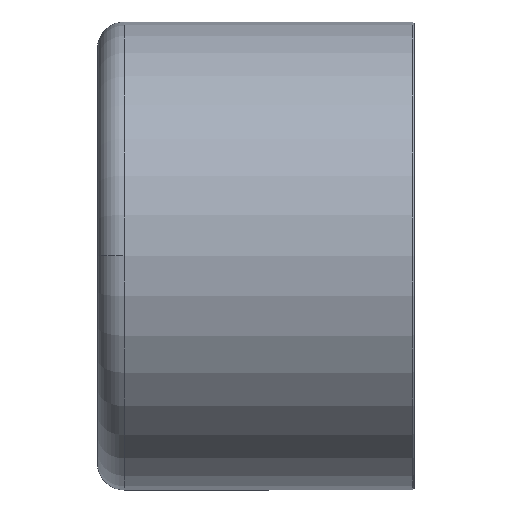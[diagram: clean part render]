
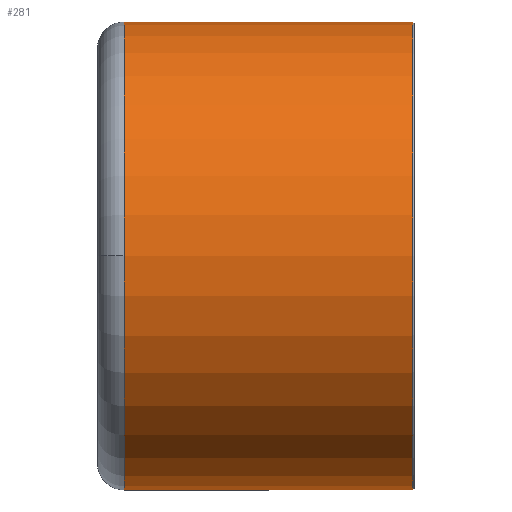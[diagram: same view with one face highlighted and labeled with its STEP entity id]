
A CAD part, top view. The second image highlights one B-rep face of the part: STEP entity #281.
In plain terms, the highlighted cylindrical face has radius 28.2 mm (diameter 56.4 mm), a partial arc.
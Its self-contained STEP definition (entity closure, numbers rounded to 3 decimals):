
#78=CARTESIAN_POINT('',(-16.5,0.,28.2));
#79=VERTEX_POINT('',#78);
#87=CARTESIAN_POINT('',(-16.5,28.2,0.0));
#88=VERTEX_POINT('',#87);
#89=CARTESIAN_POINT('',(-16.5,0.,0.0));
#90=DIRECTION('',(1.0,0.0,0.0));
#91=DIRECTION('',(0.0,1.0,0.0));
#92=AXIS2_PLACEMENT_3D('',#89,#90,#91);
#93=CIRCLE('',#92,28.2);
#94=EDGE_CURVE('',#88,#79,#93,.T.);
#241=CARTESIAN_POINT('',(1.,0.,0.0));
#242=DIRECTION('',(1.0,0.,0.0));
#243=DIRECTION('',(0.0,1.0,0.0));
#244=AXIS2_PLACEMENT_3D('',#241,#242,#243);
#245=CYLINDRICAL_SURFACE('',#244,28.2);
#246=CARTESIAN_POINT('',(18.3,28.2,0.));
#247=VERTEX_POINT('',#246);
#248=CARTESIAN_POINT('',(-16.5,28.2,0.0));
#249=DIRECTION('',(1.0,0.0,0.0));
#250=VECTOR('',#249,34.8);
#251=LINE('',#248,#250);
#252=EDGE_CURVE('',#88,#247,#251,.T.);
#253=ORIENTED_EDGE('',*,*,#252,.F.);
#254=ORIENTED_EDGE('',*,*,#94,.T.);
#255=CARTESIAN_POINT('',(-16.5,-28.2,0.));
#256=VERTEX_POINT('',#255);
#257=CARTESIAN_POINT('',(-16.5,0.,0.0));
#258=DIRECTION('',(1.0,0.0,0.0));
#259=DIRECTION('',(0.0,1.0,0.0));
#260=AXIS2_PLACEMENT_3D('',#257,#258,#259);
#261=CIRCLE('',#260,28.2);
#262=EDGE_CURVE('',#79,#256,#261,.T.);
#263=ORIENTED_EDGE('',*,*,#262,.T.);
#264=CARTESIAN_POINT('',(18.3,-28.2,0.));
#265=VERTEX_POINT('',#264);
#266=CARTESIAN_POINT('',(18.3,-28.2,0.));
#267=DIRECTION('',(-1.0,0.0,0.0));
#268=VECTOR('',#267,34.8);
#269=LINE('',#266,#268);
#270=EDGE_CURVE('',#265,#256,#269,.T.);
#271=ORIENTED_EDGE('',*,*,#270,.F.);
#272=CARTESIAN_POINT('',(18.3,0.,0.0));
#273=DIRECTION('',(1.0,0.0,0.0));
#274=DIRECTION('',(0.0,1.0,0.0));
#275=AXIS2_PLACEMENT_3D('',#272,#273,#274);
#276=CIRCLE('',#275,28.2);
#277=EDGE_CURVE('',#247,#265,#276,.T.);
#278=ORIENTED_EDGE('',*,*,#277,.F.);
#279=EDGE_LOOP('',(#253,#254,#263,#271,#278));
#280=FACE_OUTER_BOUND('',#279,.T.);
#281=ADVANCED_FACE('',(#280),#245,.T.);
